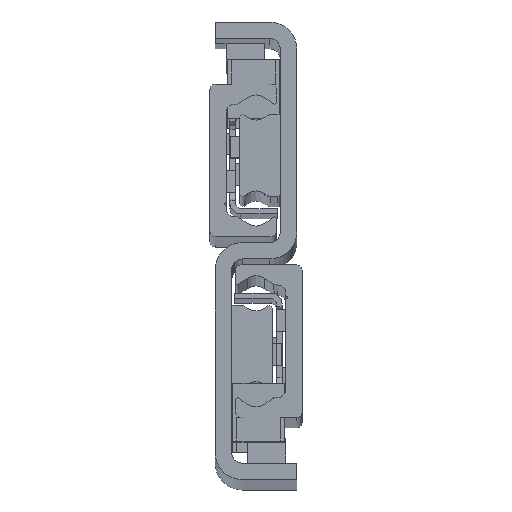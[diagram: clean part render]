
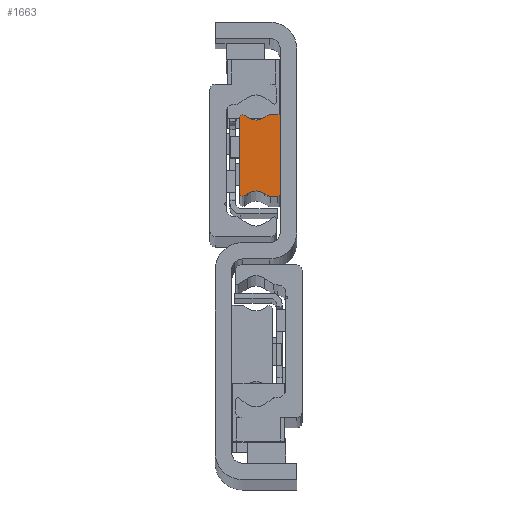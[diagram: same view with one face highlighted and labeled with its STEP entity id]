
A CAD part, top view. The second image highlights one B-rep face of the part: STEP entity #1663.
In plain terms, the highlighted planar face has unit normal (0, 0, 1) as drawn and (0, 0, -1) by its records, which use the part's own axes.
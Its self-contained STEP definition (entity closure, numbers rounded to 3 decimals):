
#115 = DIRECTION ( 'NONE',  ( -0.819, 0.574, 0. ) ) ;
#237 = CARTESIAN_POINT ( 'NONE',  ( 6.093, -6.997, 0. ) ) ;
#472 = VERTEX_POINT ( 'NONE', #12600 ) ;
#606 = EDGE_CURVE ( 'NONE', #12201, #11844, #7489, .T. ) ;
#671 = ORIENTED_EDGE ( 'NONE', *, *, #2903, .F. ) ;
#796 = VERTEX_POINT ( 'NONE', #7058 ) ;
#855 = CARTESIAN_POINT ( 'NONE',  ( 1.873, -6.5, 0. ) ) ;
#1020 = EDGE_CURVE ( 'NONE', #13193, #11690, #6523, .T. ) ;
#1097 = EDGE_CURVE ( 'NONE', #13749, #13193, #9554, .T. ) ;
#1391 = CARTESIAN_POINT ( 'NONE',  ( 6.093, 6.997, 0. ) ) ;
#1573 = ORIENTED_EDGE ( 'NONE', *, *, #4372, .F. ) ;
#1611 = CARTESIAN_POINT ( 'NONE',  ( 7.5, 6.977, 0. ) ) ;
#1637 = DIRECTION ( 'NONE',  ( 0.819, -0.574, 0. ) ) ;
#1663 = ADVANCED_FACE ( 'NONE', ( #6688 ), #1744, .T. ) ;
#1744 = PLANE ( 'NONE',  #13477 ) ;
#1779 = VERTEX_POINT ( 'NONE', #3206 ) ;
#1795 = CARTESIAN_POINT ( 'NONE',  ( 6.677, -7.405, 0. ) ) ;
#1886 = CARTESIAN_POINT ( 'NONE',  ( 0.5, 7., 0. ) ) ;
#1919 = DIRECTION ( 'NONE',  ( 1., 0., 0. ) ) ;
#1954 = DIRECTION ( 'NONE',  ( 0., 0., 1. ) ) ;
#1999 = CARTESIAN_POINT ( 'NONE',  ( 1.873, -7.5, 0. ) ) ;
#2085 = ORIENTED_EDGE ( 'NONE', *, *, #5138, .F. ) ;
#2157 = VERTEX_POINT ( 'NONE', #8609 ) ;
#2164 = CARTESIAN_POINT ( 'NONE',  ( 4.5, -9.272, 0. ) ) ;
#2197 = CIRCLE ( 'NONE', #9573, 2.778 ) ;
#2365 = CIRCLE ( 'NONE', #10616, 0.523 ) ;
#2466 = EDGE_CURVE ( 'NONE', #11690, #13476, #9499, .T. ) ;
#2467 = LINE ( 'NONE', #2750, #2860 ) ;
#2623 = EDGE_LOOP ( 'NONE', ( #3224, #11994, #11169, #2085, #8141, #8080, #12400, #12618, #671, #9210, #11363, #12142, #2804, #12673, #10476, #1573 ) ) ;
#2750 = CARTESIAN_POINT ( 'NONE',  ( 2.446, 7.319, 0. ) ) ;
#2783 = EDGE_CURVE ( 'NONE', #1779, #13731, #2467, .T. ) ;
#2804 = ORIENTED_EDGE ( 'NONE', *, *, #3770, .F. ) ;
#2860 = VECTOR ( 'NONE', #115, 1000. ) ;
#2903 = EDGE_CURVE ( 'NONE', #472, #2157, #4743, .T. ) ;
#2909 = DIRECTION ( 'NONE',  ( -1., 0., 0. ) ) ;
#3206 = CARTESIAN_POINT ( 'NONE',  ( 2.907, 6.997, 0. ) ) ;
#3224 = ORIENTED_EDGE ( 'NONE', *, *, #6640, .F. ) ;
#3283 = DIRECTION ( 'NONE',  ( -1., 0., 0. ) ) ;
#3308 = VECTOR ( 'NONE', #13074, 1000. ) ;
#3327 = CARTESIAN_POINT ( 'NONE',  ( 1.873, 6.5, 0. ) ) ;
#3432 = LINE ( 'NONE', #15235, #3997 ) ;
#3770 = EDGE_CURVE ( 'NONE', #13731, #8636, #6432, .T. ) ;
#3812 = CARTESIAN_POINT ( 'NONE',  ( 0., 7., 0. ) ) ;
#3997 = VECTOR ( 'NONE', #1637, 1000. ) ;
#4225 = CARTESIAN_POINT ( 'NONE',  ( 7.5, 6.977, 0. ) ) ;
#4330 = DIRECTION ( 'NONE',  ( -1., 0., 0. ) ) ;
#4372 = EDGE_CURVE ( 'NONE', #14229, #796, #8297, .T. ) ;
#4405 = DIRECTION ( 'NONE',  ( 0., 0., 1. ) ) ;
#4415 = CARTESIAN_POINT ( 'NONE',  ( 4.5, 9.272, 0. ) ) ;
#4531 = AXIS2_PLACEMENT_3D ( 'NONE', #1886, #12858, #10413 ) ;
#4703 = EDGE_CURVE ( 'NONE', #2157, #13749, #12482, .T. ) ;
#4743 = CIRCLE ( 'NONE', #9326, 0.5 ) ;
#5081 = VECTOR ( 'NONE', #6315, 1000. ) ;
#5138 = EDGE_CURVE ( 'NONE', #13476, #14966, #3432, .T. ) ;
#5400 = DIRECTION ( 'NONE',  ( -1., 0., 0. ) ) ;
#5444 = DIRECTION ( 'NONE',  ( 0., 0., -1. ) ) ;
#5483 = CARTESIAN_POINT ( 'NONE',  ( 7.5, -6.977, 0. ) ) ;
#5565 = CARTESIAN_POINT ( 'NONE',  ( 6.677, 7.405, 0. ) ) ;
#5713 = CARTESIAN_POINT ( 'NONE',  ( 2.446, -7.319, 0. ) ) ;
#5739 = DIRECTION ( 'NONE',  ( 0., 0., -1. ) ) ;
#6190 = CARTESIAN_POINT ( 'NONE',  ( 0.5, 7.5, 0. ) ) ;
#6315 = DIRECTION ( 'NONE',  ( -0.819, -0.574, 0. ) ) ;
#6432 = CIRCLE ( 'NONE', #13824, 1. ) ;
#6523 = LINE ( 'NONE', #11201, #15050 ) ;
#6640 = EDGE_CURVE ( 'NONE', #9756, #14229, #8872, .T. ) ;
#6688 = FACE_OUTER_BOUND ( 'NONE', #2623, .T. ) ;
#6717 = DIRECTION ( 'NONE',  ( 0., 0., 1. ) ) ;
#6849 = CARTESIAN_POINT ( 'NONE',  ( 2.446, 7.319, 0. ) ) ;
#7058 = CARTESIAN_POINT ( 'NONE',  ( 6.093, 6.997, 0. ) ) ;
#7151 = EDGE_CURVE ( 'NONE', #8636, #12201, #11938, .T. ) ;
#7292 = AXIS2_PLACEMENT_3D ( 'NONE', #2164, #5739, #13126 ) ;
#7489 = CIRCLE ( 'NONE', #4531, 0.5 ) ;
#7833 = EDGE_CURVE ( 'NONE', #796, #1779, #2197, .T. ) ;
#8070 = DIRECTION ( 'NONE',  ( 1., 0., 0. ) ) ;
#8080 = ORIENTED_EDGE ( 'NONE', *, *, #1020, .F. ) ;
#8141 = ORIENTED_EDGE ( 'NONE', *, *, #2466, .F. ) ;
#8266 = LINE ( 'NONE', #1611, #14516 ) ;
#8297 = LINE ( 'NONE', #1391, #5081 ) ;
#8352 = AXIS2_PLACEMENT_3D ( 'NONE', #11511, #6717, #5400 ) ;
#8402 = EDGE_CURVE ( 'NONE', #14966, #13610, #2365, .T. ) ;
#8566 = DIRECTION ( 'NONE',  ( -1., 0., 0. ) ) ;
#8609 = CARTESIAN_POINT ( 'NONE',  ( 0.5, -7.5, 0. ) ) ;
#8636 = VERTEX_POINT ( 'NONE', #14648 ) ;
#8694 = DIRECTION ( 'NONE',  ( 0.819, 0.574, 0. ) ) ;
#8872 = CIRCLE ( 'NONE', #8352, 0.523 ) ;
#9210 = ORIENTED_EDGE ( 'NONE', *, *, #13735, .F. ) ;
#9289 = CARTESIAN_POINT ( 'NONE',  ( 0., -7., 0. ) ) ;
#9326 = AXIS2_PLACEMENT_3D ( 'NONE', #11520, #15100, #2909 ) ;
#9350 = CARTESIAN_POINT ( 'NONE',  ( 6.977, -6.977, 0. ) ) ;
#9469 = DIRECTION ( 'NONE',  ( -1., 0., 0. ) ) ;
#9499 = CIRCLE ( 'NONE', #7292, 2.778 ) ;
#9554 = CIRCLE ( 'NONE', #11249, 1. ) ;
#9573 = AXIS2_PLACEMENT_3D ( 'NONE', #4415, #12905, #8070 ) ;
#9756 = VERTEX_POINT ( 'NONE', #4225 ) ;
#10127 = DIRECTION ( 'NONE',  ( 0., 1., 0. ) ) ;
#10413 = DIRECTION ( 'NONE',  ( -1., 0., 0. ) ) ;
#10476 = ORIENTED_EDGE ( 'NONE', *, *, #7833, .F. ) ;
#10616 = AXIS2_PLACEMENT_3D ( 'NONE', #9350, #1954, #15238 ) ;
#11169 = ORIENTED_EDGE ( 'NONE', *, *, #8402, .F. ) ;
#11201 = CARTESIAN_POINT ( 'NONE',  ( 2.907, -6.997, 0. ) ) ;
#11249 = AXIS2_PLACEMENT_3D ( 'NONE', #855, #4405, #3283 ) ;
#11363 = ORIENTED_EDGE ( 'NONE', *, *, #606, .F. ) ;
#11511 = CARTESIAN_POINT ( 'NONE',  ( 6.977, 6.977, 0. ) ) ;
#11520 = CARTESIAN_POINT ( 'NONE',  ( 0.5, -7., 0. ) ) ;
#11690 = VERTEX_POINT ( 'NONE', #13281 ) ;
#11720 = VECTOR ( 'NONE', #1919, 1000. ) ;
#11820 = DIRECTION ( 'NONE',  ( 0., 0., 1. ) ) ;
#11844 = VERTEX_POINT ( 'NONE', #3812 ) ;
#11938 = LINE ( 'NONE', #6190, #12302 ) ;
#11994 = ORIENTED_EDGE ( 'NONE', *, *, #13047, .F. ) ;
#12142 = ORIENTED_EDGE ( 'NONE', *, *, #7151, .F. ) ;
#12201 = VERTEX_POINT ( 'NONE', #15781 ) ;
#12302 = VECTOR ( 'NONE', #8566, 1000. ) ;
#12400 = ORIENTED_EDGE ( 'NONE', *, *, #1097, .F. ) ;
#12482 = LINE ( 'NONE', #15200, #11720 ) ;
#12600 = CARTESIAN_POINT ( 'NONE',  ( 0., -7., 0. ) ) ;
#12618 = ORIENTED_EDGE ( 'NONE', *, *, #4703, .F. ) ;
#12673 = ORIENTED_EDGE ( 'NONE', *, *, #2783, .F. ) ;
#12858 = DIRECTION ( 'NONE',  ( 0., 0., 1. ) ) ;
#12905 = DIRECTION ( 'NONE',  ( 0., 0., -1. ) ) ;
#13047 = EDGE_CURVE ( 'NONE', #13610, #9756, #8266, .T. ) ;
#13074 = DIRECTION ( 'NONE',  ( 0., -1., 0. ) ) ;
#13126 = DIRECTION ( 'NONE',  ( 1., 0., 0. ) ) ;
#13186 = LINE ( 'NONE', #9289, #3308 ) ;
#13193 = VERTEX_POINT ( 'NONE', #5713 ) ;
#13281 = CARTESIAN_POINT ( 'NONE',  ( 2.907, -6.997, 0. ) ) ;
#13476 = VERTEX_POINT ( 'NONE', #237 ) ;
#13477 = AXIS2_PLACEMENT_3D ( 'NONE', #15244, #5444, #4330 ) ;
#13610 = VERTEX_POINT ( 'NONE', #5483 ) ;
#13731 = VERTEX_POINT ( 'NONE', #6849 ) ;
#13735 = EDGE_CURVE ( 'NONE', #11844, #472, #13186, .T. ) ;
#13749 = VERTEX_POINT ( 'NONE', #1999 ) ;
#13824 = AXIS2_PLACEMENT_3D ( 'NONE', #3327, #11820, #9469 ) ;
#14229 = VERTEX_POINT ( 'NONE', #5565 ) ;
#14516 = VECTOR ( 'NONE', #10127, 1000. ) ;
#14648 = CARTESIAN_POINT ( 'NONE',  ( 1.873, 7.5, 0. ) ) ;
#14966 = VERTEX_POINT ( 'NONE', #1795 ) ;
#15050 = VECTOR ( 'NONE', #8694, 1000. ) ;
#15100 = DIRECTION ( 'NONE',  ( 0., 0., 1. ) ) ;
#15200 = CARTESIAN_POINT ( 'NONE',  ( 1.873, -7.5, 0. ) ) ;
#15235 = CARTESIAN_POINT ( 'NONE',  ( 6.677, -7.405, 0. ) ) ;
#15238 = DIRECTION ( 'NONE',  ( -1., 0., 0. ) ) ;
#15244 = CARTESIAN_POINT ( 'NONE',  ( 6.977, 6.977, 0. ) ) ;
#15781 = CARTESIAN_POINT ( 'NONE',  ( 0.5, 7.5, 0. ) ) ;
